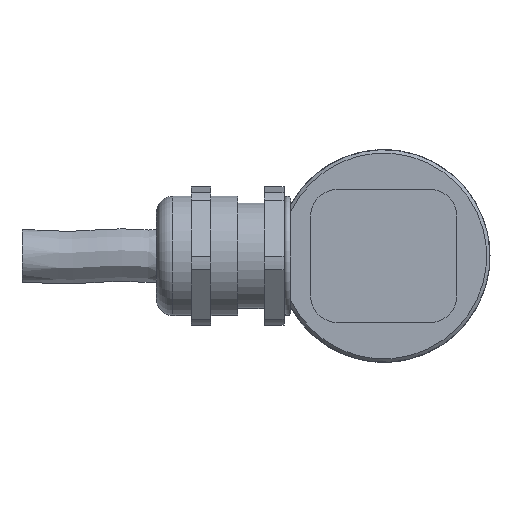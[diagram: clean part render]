
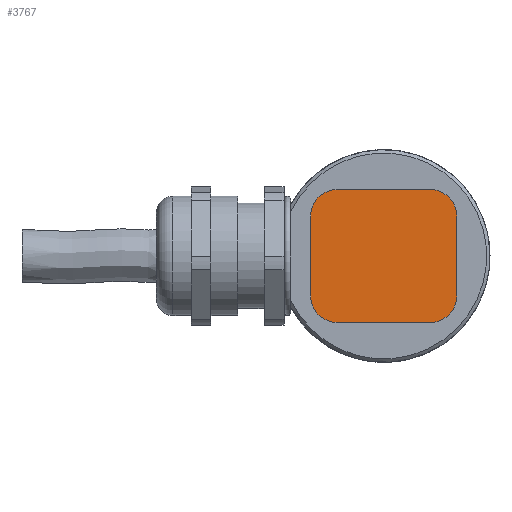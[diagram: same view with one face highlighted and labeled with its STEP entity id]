
A CAD part, left-side view. The second image highlights one B-rep face of the part: STEP entity #3767.
In plain terms, the highlighted planar face has unit normal (-1, 0, 0).
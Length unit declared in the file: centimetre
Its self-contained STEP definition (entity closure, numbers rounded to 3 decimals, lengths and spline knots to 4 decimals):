
#912=VECTOR('',#4455,1.);
#915=VECTOR('',#4465,1.);
#919=VECTOR('',#4476,1.);
#922=VECTOR('',#4486,1.);
#1192=LINE('',#6012,#912);
#1195=LINE('',#6023,#915);
#1199=LINE('',#6035,#919);
#1202=LINE('',#6044,#922);
#1344=PLANE('',#3986);
#1596=VERTEX_POINT('',#6000);
#1597=VERTEX_POINT('',#6001);
#1601=VERTEX_POINT('',#6011);
#1602=VERTEX_POINT('',#6015);
#1603=VERTEX_POINT('',#6016);
#1606=VERTEX_POINT('',#6027);
#1607=VERTEX_POINT('',#6028);
#1610=VERTEX_POINT('',#6039);
#1748=CIRCLE('',#3965,0.4);
#1750=CIRCLE('',#3969,0.4);
#1752=CIRCLE('',#3973,0.4);
#1754=CIRCLE('',#3977,0.4);
#2099=EDGE_CURVE('',#1596,#1597,#1748,.T.);
#2105=EDGE_CURVE('',#1597,#1601,#1192,.T.);
#2106=EDGE_CURVE('',#1602,#1603,#1750,.T.);
#2110=EDGE_CURVE('',#1603,#1596,#1195,.T.);
#2112=EDGE_CURVE('',#1606,#1607,#1752,.T.);
#2116=EDGE_CURVE('',#1607,#1602,#1199,.T.);
#2118=EDGE_CURVE('',#1601,#1610,#1754,.T.);
#2121=EDGE_CURVE('',#1610,#1606,#1202,.T.);
#2881=ORIENTED_EDGE('',*,*,#2099,.T.);
#2882=ORIENTED_EDGE('',*,*,#2105,.T.);
#2883=ORIENTED_EDGE('',*,*,#2118,.T.);
#2884=ORIENTED_EDGE('',*,*,#2121,.T.);
#2885=ORIENTED_EDGE('',*,*,#2112,.T.);
#2886=ORIENTED_EDGE('',*,*,#2116,.T.);
#2887=ORIENTED_EDGE('',*,*,#2106,.T.);
#2888=ORIENTED_EDGE('',*,*,#2110,.T.);
#3355=EDGE_LOOP('',(#2881,#2882,#2883,#2884,#2885,#2886,#2887,#2888));
#3565=FACE_BOUND('',#3355,.T.);
#3767=ADVANCED_FACE('',(#3565),#1344,.F.);
#3965=AXIS2_PLACEMENT_3D('',#5999,#4446,#4447);
#3969=AXIS2_PLACEMENT_3D('',#6014,#4458,#4459);
#3973=AXIS2_PLACEMENT_3D('',#6026,#4469,#4470);
#3977=AXIS2_PLACEMENT_3D('',#6038,#4480,#4481);
#3986=AXIS2_PLACEMENT_3D('',#6056,#4498,$);
#4446=DIRECTION('',(-1.,0.,0.));
#4447=DIRECTION('',(0.,0.283,0.283));
#4455=DIRECTION('',(0.,0.,-1.));
#4458=DIRECTION('',(-1.,0.,0.));
#4459=DIRECTION('',(0.,-0.283,0.283));
#4465=DIRECTION('',(0.,1.,0.));
#4469=DIRECTION('',(-1.,0.,0.));
#4470=DIRECTION('',(0.,-0.283,-0.283));
#4476=DIRECTION('',(0.,0.,1.));
#4480=DIRECTION('',(-1.,0.,0.));
#4481=DIRECTION('',(0.,0.283,-0.283));
#4486=DIRECTION('',(0.,-1.,0.));
#4498=DIRECTION('',(1.,0.,0.));
#5999=CARTESIAN_POINT('',(0.1,0.7,0.6));
#6000=CARTESIAN_POINT('',(0.1,0.7,1.));
#6001=CARTESIAN_POINT('',(0.1,1.1,0.6));
#6011=CARTESIAN_POINT('',(0.1,1.1,-0.6));
#6012=CARTESIAN_POINT('',(0.1,1.1,1.));
#6014=CARTESIAN_POINT('',(0.1,-0.7,0.6));
#6015=CARTESIAN_POINT('',(0.1,-1.1,0.6));
#6016=CARTESIAN_POINT('',(0.1,-0.7,1.));
#6023=CARTESIAN_POINT('',(0.1,-1.1,1.));
#6026=CARTESIAN_POINT('',(0.1,-0.7,-0.6));
#6027=CARTESIAN_POINT('',(0.1,-0.7,-1.));
#6028=CARTESIAN_POINT('',(0.1,-1.1,-0.6));
#6035=CARTESIAN_POINT('',(0.1,-1.1,-1.));
#6038=CARTESIAN_POINT('',(0.1,0.7,-0.6));
#6039=CARTESIAN_POINT('',(0.1,0.7,-1.));
#6044=CARTESIAN_POINT('',(0.1,1.1,-1.));
#6056=CARTESIAN_POINT('',(0.1,0.,0.));
